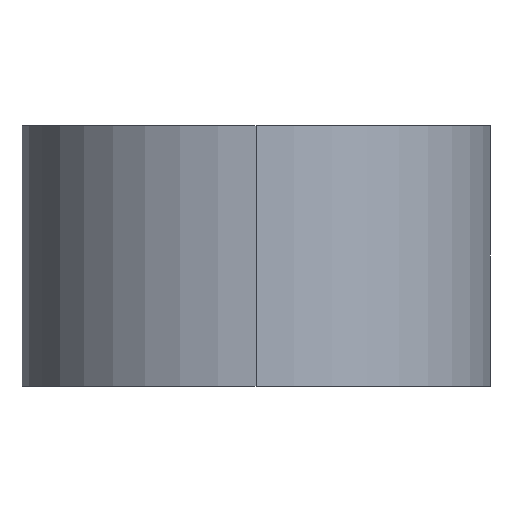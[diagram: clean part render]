
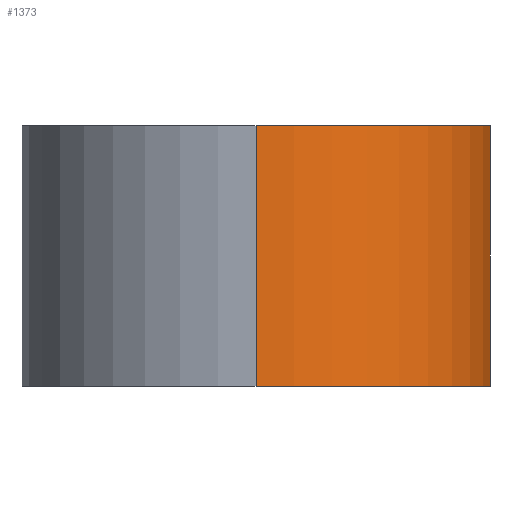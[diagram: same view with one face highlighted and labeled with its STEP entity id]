
A CAD part, left-side view. The second image highlights one B-rep face of the part: STEP entity #1373.
In plain terms, the highlighted cylindrical face has radius 4.5 mm (diameter 9 mm), a partial arc.
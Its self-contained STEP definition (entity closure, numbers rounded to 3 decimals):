
#68 = VERTEX_POINT ( 'NONE', #929 ) ;
#112 = DIRECTION ( 'NONE',  ( -1., 0., 0. ) ) ;
#130 = VECTOR ( 'NONE', #1722, 1000. ) ;
#155 = LINE ( 'NONE', #643, #130 ) ;
#212 = AXIS2_PLACEMENT_3D ( 'NONE', #1591, #773, #1731 ) ;
#306 = EDGE_CURVE ( 'NONE', #940, #1082, #1405, .T. ) ;
#365 = CARTESIAN_POINT ( 'NONE',  ( -4.5, 0., 0. ) ) ;
#383 = CARTESIAN_POINT ( 'NONE',  ( 0., 0., 5. ) ) ;
#417 = ORIENTED_EDGE ( 'NONE', *, *, #1415, .F. ) ;
#434 = ORIENTED_EDGE ( 'NONE', *, *, #1719, .T. ) ;
#448 = AXIS2_PLACEMENT_3D ( 'NONE', #652, #1593, #774 ) ;
#480 = AXIS2_PLACEMENT_3D ( 'NONE', #383, #1721, #112 ) ;
#524 = ORIENTED_EDGE ( 'NONE', *, *, #537, .F. ) ;
#537 = EDGE_CURVE ( 'NONE', #68, #1082, #1723, .T. ) ;
#551 = ORIENTED_EDGE ( 'NONE', *, *, #306, .T. ) ;
#624 = CARTESIAN_POINT ( 'NONE',  ( 0.323, -4.488, 0. ) ) ;
#643 = CARTESIAN_POINT ( 'NONE',  ( -4.5, 0., 5. ) ) ;
#652 = CARTESIAN_POINT ( 'NONE',  ( 0., 0., 0. ) ) ;
#703 = DIRECTION ( 'NONE',  ( 0., 0., -1. ) ) ;
#773 = DIRECTION ( 'NONE',  ( 0., 0., 1. ) ) ;
#774 = DIRECTION ( 'NONE',  ( 1., 0., 0. ) ) ;
#792 = VERTEX_POINT ( 'NONE', #1078 ) ;
#811 = EDGE_LOOP ( 'NONE', ( #417, #434, #551, #524 ) ) ;
#929 = CARTESIAN_POINT ( 'NONE',  ( 0.323, -4.488, 5. ) ) ;
#940 = VERTEX_POINT ( 'NONE', #365 ) ;
#1078 = CARTESIAN_POINT ( 'NONE',  ( -4.5, 0., 5. ) ) ;
#1082 = VERTEX_POINT ( 'NONE', #624 ) ;
#1229 = CIRCLE ( 'NONE', #212, 4.5 ) ;
#1287 = FACE_OUTER_BOUND ( 'NONE', #811, .T. ) ;
#1329 = VECTOR ( 'NONE', #703, 1000. ) ;
#1373 = ADVANCED_FACE ( 'NONE', ( #1287 ), #1606, .T. ) ;
#1405 = CIRCLE ( 'NONE', #448, 4.5 ) ;
#1415 = EDGE_CURVE ( 'NONE', #792, #68, #1229, .T. ) ;
#1591 = CARTESIAN_POINT ( 'NONE',  ( 0., 0., 5. ) ) ;
#1593 = DIRECTION ( 'NONE',  ( 0., 0., 1. ) ) ;
#1606 = CYLINDRICAL_SURFACE ( 'NONE', #480, 4.5 ) ;
#1658 = CARTESIAN_POINT ( 'NONE',  ( 0.323, -4.488, 5. ) ) ;
#1719 = EDGE_CURVE ( 'NONE', #792, #940, #155, .T. ) ;
#1721 = DIRECTION ( 'NONE',  ( 0., 0., -1. ) ) ;
#1722 = DIRECTION ( 'NONE',  ( 0., 0., -1. ) ) ;
#1723 = LINE ( 'NONE', #1658, #1329 ) ;
#1731 = DIRECTION ( 'NONE',  ( 1., 0., 0. ) ) ;
